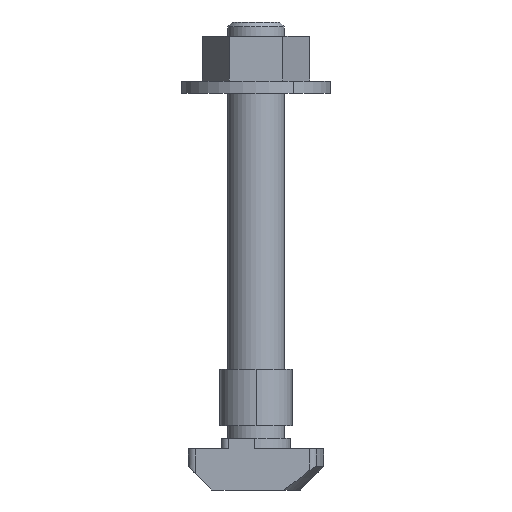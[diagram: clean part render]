
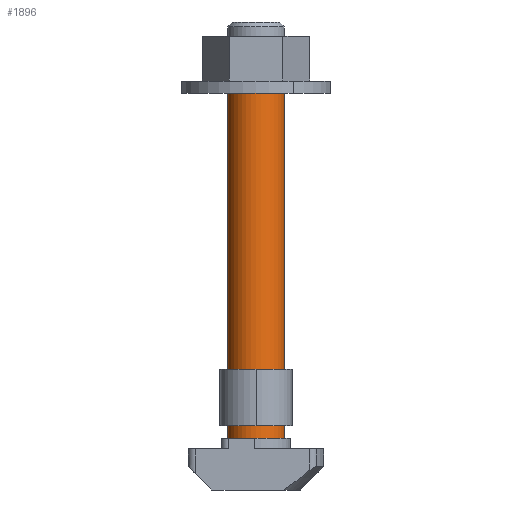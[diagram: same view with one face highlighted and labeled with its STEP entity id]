
A CAD part, left-side view. The second image highlights one B-rep face of the part: STEP entity #1896.
In plain terms, the highlighted cylindrical face has radius 4 mm (diameter 8 mm), a partial arc.
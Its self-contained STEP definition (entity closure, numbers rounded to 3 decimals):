
#235 = VERTEX_POINT ( 'NONE', #2682 ) ;
#315 = VERTEX_POINT ( 'NONE', #806 ) ;
#362 = ORIENTED_EDGE ( 'NONE', *, *, #531, .T. ) ;
#363 = VERTEX_POINT ( 'NONE', #683 ) ;
#372 = AXIS2_PLACEMENT_3D ( 'NONE', #2012, #2600, #3131 ) ;
#376 = CARTESIAN_POINT ( 'NONE',  ( 7.95, 41.2, 1.205 ) ) ;
#399 = CARTESIAN_POINT ( 'NONE',  ( 7.993, 41.2, 1.15 ) ) ;
#473 = CIRCLE ( 'NONE', #372, 4. ) ;
#498 = CARTESIAN_POINT ( 'NONE',  ( 8., 41.2, 44. ) ) ;
#531 = EDGE_CURVE ( 'NONE', #2639, #315, #3245, .T. ) ;
#569 = CARTESIAN_POINT ( 'NONE',  ( 7.964, 41.2, 1.235 ) ) ;
#635 = CIRCLE ( 'NONE', #2859, 4. ) ;
#683 = CARTESIAN_POINT ( 'NONE',  ( 8., 33.2, -4.5 ) ) ;
#699 = DIRECTION ( 'NONE',  ( 0., 0., -1. ) ) ;
#749 = CARTESIAN_POINT ( 'NONE',  ( 8., 33.2, 54. ) ) ;
#752 = ORIENTED_EDGE ( 'NONE', *, *, #924, .T. ) ;
#801 = CARTESIAN_POINT ( 'NONE',  ( 7.954, 41.2, 1.221 ) ) ;
#806 = CARTESIAN_POINT ( 'NONE',  ( 8., 41.2, -4.5 ) ) ;
#896 = CARTESIAN_POINT ( 'NONE',  ( 7.984, 41.2, 1.152 ) ) ;
#924 = EDGE_CURVE ( 'NONE', #1090, #2639, #2334, .T. ) ;
#943 = CARTESIAN_POINT ( 'NONE',  ( 8., 41.2, 1.15 ) ) ;
#956 = CARTESIAN_POINT ( 'NONE',  ( 7.973, 41.2, 1.242 ) ) ;
#995 = CARTESIAN_POINT ( 'NONE',  ( 7.957, 41.2, 1.226 ) ) ;
#1011 = CARTESIAN_POINT ( 'NONE',  ( 7.996, 41.2, 1.25 ) ) ;
#1053 = CARTESIAN_POINT ( 'NONE',  ( 7.983, 41.2, 1.247 ) ) ;
#1090 = VERTEX_POINT ( 'NONE', #1861 ) ;
#1103 = CARTESIAN_POINT ( 'NONE',  ( 7.953, 41.2, 1.216 ) ) ;
#1192 = CARTESIAN_POINT ( 'NONE',  ( 7.978, 41.2, 1.245 ) ) ;
#1205 = CARTESIAN_POINT ( 'NONE',  ( 7.95, 41.2, 1.199 ) ) ;
#1226 = CARTESIAN_POINT ( 'NONE',  ( 8., 37.2, 54. ) ) ;
#1247 = CARTESIAN_POINT ( 'NONE',  ( 8., 37.2, -4.5 ) ) ;
#1270 = CARTESIAN_POINT ( 'NONE',  ( 7.955, 41.2, 1.178 ) ) ;
#1271 = ORIENTED_EDGE ( 'NONE', *, *, #2189, .F. ) ;
#1286 = DIRECTION ( 'NONE',  ( 0., 1., 0. ) ) ;
#1300 = CARTESIAN_POINT ( 'NONE',  ( 7.992, 41.2, 1.25 ) ) ;
#1325 = CARTESIAN_POINT ( 'NONE',  ( 7.958, 41.2, 1.173 ) ) ;
#1389 = CARTESIAN_POINT ( 'NONE',  ( 7.989, 41.2, 1.249 ) ) ;
#1426 = CARTESIAN_POINT ( 'NONE',  ( 7.95, 41.2, 1.194 ) ) ;
#1442 = DIRECTION ( 'NONE',  ( 0., 0., -1. ) ) ;
#1673 = CARTESIAN_POINT ( 'NONE',  ( 7.961, 41.2, 1.231 ) ) ;
#1731 = LINE ( 'NONE', #2241, #2994 ) ;
#1861 = CARTESIAN_POINT ( 'NONE',  ( 8., 41.2, 1.25 ) ) ;
#1896 = ADVANCED_FACE ( 'NONE', ( #2166 ), #3272, .T. ) ;
#1906 = VECTOR ( 'NONE', #1442, 1000. ) ;
#1910 = EDGE_CURVE ( 'NONE', #363, #315, #635, .T. ) ;
#1928 = EDGE_LOOP ( 'NONE', ( #1271, #2710, #2378, #752, #362, #2374 ) ) ;
#1976 = EDGE_CURVE ( 'NONE', #235, #2266, #473, .T. ) ;
#2012 = CARTESIAN_POINT ( 'NONE',  ( 8., 37.2, 44. ) ) ;
#2016 = CARTESIAN_POINT ( 'NONE',  ( 7.961, 41.2, 1.168 ) ) ;
#2039 = CARTESIAN_POINT ( 'NONE',  ( 7.969, 41.2, 1.16 ) ) ;
#2046 = CARTESIAN_POINT ( 'NONE',  ( 8., 41.2, 1.25 ) ) ;
#2077 = CARTESIAN_POINT ( 'NONE',  ( 7.953, 41.2, 1.183 ) ) ;
#2166 = FACE_OUTER_BOUND ( 'NONE', #1928, .T. ) ;
#2189 = EDGE_CURVE ( 'NONE', #235, #363, #2476, .T. ) ;
#2237 = CARTESIAN_POINT ( 'NONE',  ( 8., 41.2, 54. ) ) ;
#2241 = CARTESIAN_POINT ( 'NONE',  ( 8., 41.2, 54. ) ) ;
#2266 = VERTEX_POINT ( 'NONE', #498 ) ;
#2334 = B_SPLINE_CURVE_WITH_KNOTS ( 'NONE', 3,
 ( #2046, #1011, #1300, #1389, #1053, #1192, #956, #3045, #569, #1673, #995, #801, #1103, #3138, #376, #1205, #1426, #2755, #2077, #1270, #1325, #2016, #3030, #2039, #3197, #2742, #896, #3184, #399, #3061, #943 ),
 .UNSPECIFIED., .F., .F.,
 ( 4, 3, 3, 3, 3, 3, 3, 3, 3, 3, 4 ),
 ( 0., 0., 0., 0., 0., 0., 0., 0., 0., 0., 0. ),
 .UNSPECIFIED. ) ;
#2374 = ORIENTED_EDGE ( 'NONE', *, *, #1910, .F. ) ;
#2378 = ORIENTED_EDGE ( 'NONE', *, *, #2883, .T. ) ;
#2476 = LINE ( 'NONE', #749, #3082 ) ;
#2500 = DIRECTION ( 'NONE',  ( 0., 1., 0. ) ) ;
#2551 = DIRECTION ( 'NONE',  ( 0., 0., -1. ) ) ;
#2600 = DIRECTION ( 'NONE',  ( 0., 0., -1. ) ) ;
#2639 = VERTEX_POINT ( 'NONE', #2912 ) ;
#2682 = CARTESIAN_POINT ( 'NONE',  ( 8., 33.2, 44. ) ) ;
#2710 = ORIENTED_EDGE ( 'NONE', *, *, #1976, .T. ) ;
#2742 = CARTESIAN_POINT ( 'NONE',  ( 7.979, 41.2, 1.154 ) ) ;
#2755 = CARTESIAN_POINT ( 'NONE',  ( 7.951, 41.2, 1.188 ) ) ;
#2859 = AXIS2_PLACEMENT_3D ( 'NONE', #1247, #2551, #2500 ) ;
#2883 = EDGE_CURVE ( 'NONE', #2266, #1090, #1731, .T. ) ;
#2912 = CARTESIAN_POINT ( 'NONE',  ( 8., 41.2, 1.15 ) ) ;
#2994 = VECTOR ( 'NONE', #699, 1000. ) ;
#3030 = CARTESIAN_POINT ( 'NONE',  ( 7.965, 41.2, 1.164 ) ) ;
#3045 = CARTESIAN_POINT ( 'NONE',  ( 7.968, 41.2, 1.239 ) ) ;
#3056 = DIRECTION ( 'NONE',  ( 0., 0., -1. ) ) ;
#3061 = CARTESIAN_POINT ( 'NONE',  ( 7.996, 41.2, 1.15 ) ) ;
#3082 = VECTOR ( 'NONE', #3269, 1000. ) ;
#3131 = DIRECTION ( 'NONE',  ( 1., 0., 0. ) ) ;
#3138 = CARTESIAN_POINT ( 'NONE',  ( 7.951, 41.2, 1.211 ) ) ;
#3179 = AXIS2_PLACEMENT_3D ( 'NONE', #1226, #3056, #1286 ) ;
#3184 = CARTESIAN_POINT ( 'NONE',  ( 7.99, 41.2, 1.151 ) ) ;
#3197 = CARTESIAN_POINT ( 'NONE',  ( 7.974, 41.2, 1.157 ) ) ;
#3245 = LINE ( 'NONE', #2237, #1906 ) ;
#3269 = DIRECTION ( 'NONE',  ( 0., 0., -1. ) ) ;
#3272 = CYLINDRICAL_SURFACE ( 'NONE', #3179, 4. ) ;
